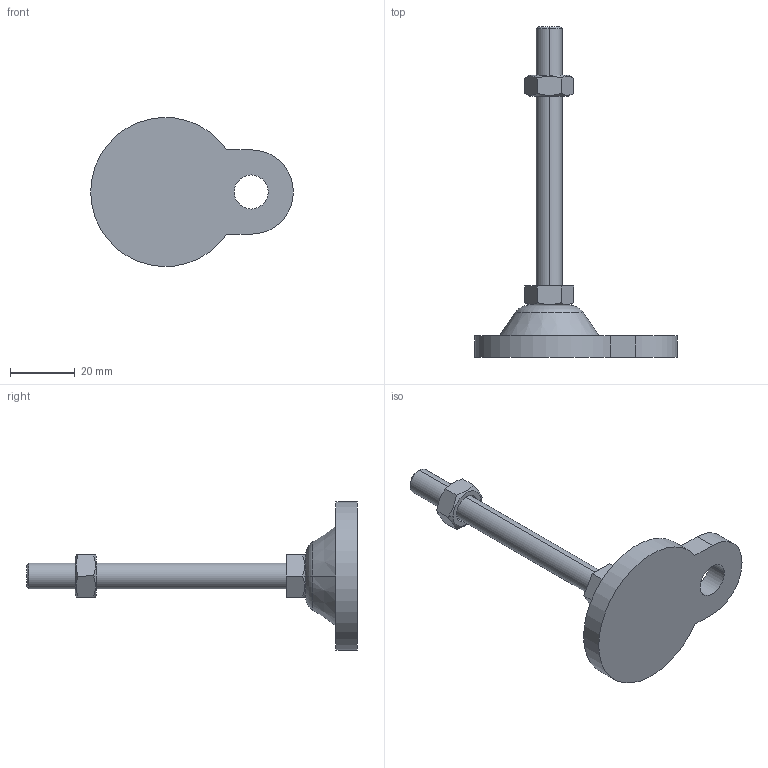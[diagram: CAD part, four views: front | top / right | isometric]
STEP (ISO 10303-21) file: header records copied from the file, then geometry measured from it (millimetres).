
FILE_DESCRIPTION (( 'STEP AP214' ), '1' );
FILE_NAME ('ARB46-M8-80.step', '2021-01-07T07:16:17', ( '' ), ( '' ), 'SwSTEP 2.0', 'SolidWorks 2019', '' );
FILE_SCHEMA (( 'AUTOMOTIVE_DESIGN' ));
Length unit declared in the file: millimetre
Products named in the file (1): ARB46-M8-80
Bounding box: 62.5 x 102 x 45.95 mm (x, y, z)
Volume: 22873.3 mm3; surface area: 8790.5 mm2
Topology: 3 solids, 3 shells, 46 faces, 100 edges, 62 vertices
Faces by surface type: plane 22, cone 14, cylinder 8, torus 2
Entity records: 1458 total; most frequent: CARTESIAN_POINT 395, DIRECTION 212, ORIENTED_EDGE 200, EDGE_CURVE 100, AXIS2_PLACEMENT_3D 83, VERTEX_POINT 62, EDGE_LOOP 52, FACE_OUTER_BOUND 46
